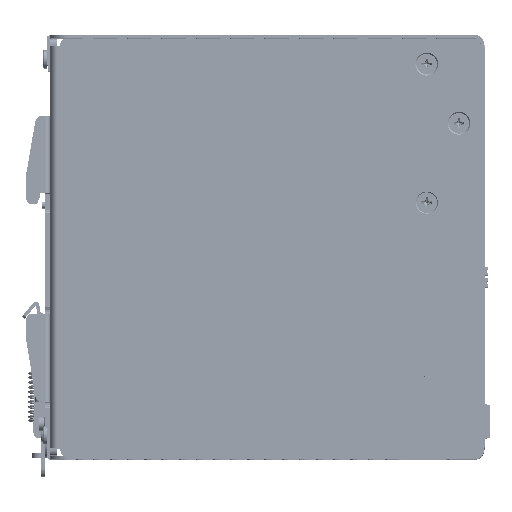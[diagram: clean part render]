
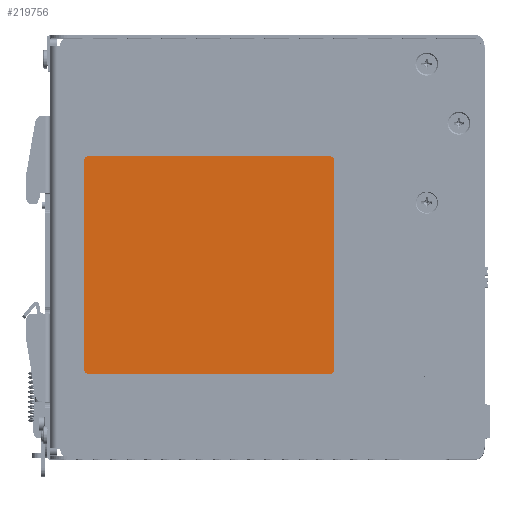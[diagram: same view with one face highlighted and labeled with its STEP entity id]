
A CAD part, top view. The second image highlights one B-rep face of the part: STEP entity #219756.
In plain terms, the highlighted planar face has unit normal (0, 0, 1) as drawn and (0, -1, 0) by its records, which use the part's own axes.
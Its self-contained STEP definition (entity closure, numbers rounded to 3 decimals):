
#219525=CARTESIAN_POINT('',(-35.5,0.,-30.75));
#219526=DIRECTION('',(0.,1.,0.));
#219527=DIRECTION('',(0.,0.,-1.));
#219528=AXIS2_PLACEMENT_3D('',#219525,#219526,#219527);
#219533=DIRECTION('',(0.,0.,1.));
#219534=VECTOR('',#219533,61.5);
#219535=CARTESIAN_POINT('',(-36.5,0.,-30.75));
#219536=LINE('',#219535,#219534);
#219540=CARTESIAN_POINT('',(-35.5,0.,30.75));
#219541=DIRECTION('',(0.,1.,0.));
#219542=DIRECTION('',(-1.,0.,0.));
#219543=AXIS2_PLACEMENT_3D('',#219540,#219541,#219542);
#219548=DIRECTION('',(1.,0.,0.));
#219549=VECTOR('',#219548,71.);
#219550=CARTESIAN_POINT('',(-35.5,0.,31.75));
#219551=LINE('',#219550,#219549);
#219555=CARTESIAN_POINT('',(35.5,0.,30.75));
#219556=DIRECTION('',(0.,1.,0.));
#219557=DIRECTION('',(0.,0.,1.));
#219558=AXIS2_PLACEMENT_3D('',#219555,#219556,#219557);
#219563=DIRECTION('',(0.,0.,-1.));
#219564=VECTOR('',#219563,61.5);
#219565=CARTESIAN_POINT('',(36.5,0.,30.75));
#219566=LINE('',#219565,#219564);
#219570=CARTESIAN_POINT('',(35.5,0.,-30.75));
#219571=DIRECTION('',(0.,1.,0.));
#219572=DIRECTION('',(1.,0.,0.));
#219573=AXIS2_PLACEMENT_3D('',#219570,#219571,#219572);
#219578=DIRECTION('',(-1.,0.,0.));
#219579=VECTOR('',#219578,71.);
#219580=CARTESIAN_POINT('',(35.5,0.,-31.75));
#219581=LINE('',#219580,#219579);
#219701=CARTESIAN_POINT('',(-35.5,0.,-31.75));
#219702=CARTESIAN_POINT('',(-36.5,0.,-30.75));
#219703=VERTEX_POINT('',#219701);
#219704=VERTEX_POINT('',#219702);
#219705=CARTESIAN_POINT('',(-36.5,0.,30.75));
#219706=VERTEX_POINT('',#219705);
#219707=CARTESIAN_POINT('',(-35.5,0.,31.75));
#219708=VERTEX_POINT('',#219707);
#219709=CARTESIAN_POINT('',(35.5,0.,31.75));
#219710=VERTEX_POINT('',#219709);
#219711=CARTESIAN_POINT('',(36.5,0.,30.75));
#219712=VERTEX_POINT('',#219711);
#219713=CARTESIAN_POINT('',(36.5,0.,-30.75));
#219714=VERTEX_POINT('',#219713);
#219715=CARTESIAN_POINT('',(35.5,0.,-31.75));
#219716=VERTEX_POINT('',#219715);
#219733=CARTESIAN_POINT('',(0.,0.,0.));
#219734=DIRECTION('',(0.,1.,0.));
#219735=DIRECTION('',(1.,0.,0.));
#219736=AXIS2_PLACEMENT_3D('',#219733,#219734,#219735);
#219737=PLANE('',#219736);
#219739=ORIENTED_EDGE('',*,*,#219738,.T.);
#219741=ORIENTED_EDGE('',*,*,#219740,.T.);
#219743=ORIENTED_EDGE('',*,*,#219742,.T.);
#219745=ORIENTED_EDGE('',*,*,#219744,.T.);
#219747=ORIENTED_EDGE('',*,*,#219746,.T.);
#219749=ORIENTED_EDGE('',*,*,#219748,.T.);
#219751=ORIENTED_EDGE('',*,*,#219750,.T.);
#219753=ORIENTED_EDGE('',*,*,#219752,.T.);
#219754=EDGE_LOOP('',(#219739,#219741,#219743,#219745,#219747,#219749,#219751,
#219753));
#219755=FACE_OUTER_BOUND('',#219754,.F.);
#219756=ADVANCED_FACE('',(#219755),#219737,.F.);
#219529=CIRCLE('',#219528,1.);
#219544=CIRCLE('',#219543,1.);
#219559=CIRCLE('',#219558,1.);
#219574=CIRCLE('',#219573,1.);
#219738=EDGE_CURVE('',#219703,#219704,#219529,.T.);
#219740=EDGE_CURVE('',#219704,#219706,#219536,.T.);
#219742=EDGE_CURVE('',#219706,#219708,#219544,.T.);
#219744=EDGE_CURVE('',#219708,#219710,#219551,.T.);
#219746=EDGE_CURVE('',#219710,#219712,#219559,.T.);
#219748=EDGE_CURVE('',#219712,#219714,#219566,.T.);
#219750=EDGE_CURVE('',#219714,#219716,#219574,.T.);
#219752=EDGE_CURVE('',#219716,#219703,#219581,.T.);
